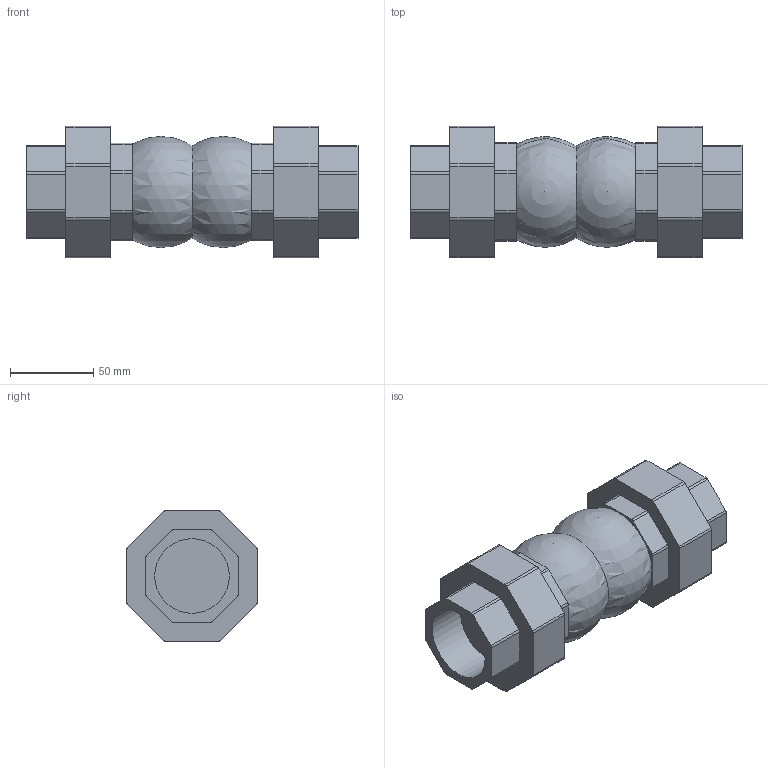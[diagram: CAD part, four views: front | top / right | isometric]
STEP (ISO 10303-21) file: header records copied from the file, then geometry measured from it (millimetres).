
FILE_DESCRIPTION(('STEP AP203'), '1');
FILE_NAME('3D_505-040-16', '', ('UNSPECIFIED'), ('UNSPECIFIED'), 'C3D Converter', 'C3D Toolkit', '');
FILE_SCHEMA(('CONFIG_CONTROL_DESIGN'));
Length unit declared in the file: millimetre
Bounding box: 200 x 79 x 79 mm (x, y, z)
Volume: 631759.4 mm3; surface area: 65482 mm2
Topology: 1 solids, 1 shells, 108 faces, 297 edges, 199 vertices
Faces by surface type: plane 58, cylinder 48, sphere 2
Full cylindrical faces by diameter (mm): 45 x2
Entity records: 4307 total; most frequent: DIRECTION 606, CARTESIAN_POINT 593, ORIENTED_EDGE 578, EDGE_CURVE 289, AXIS2_PLACEMENT_3D 208, VERTEX_POINT 195, LINE 190, VECTOR 190
